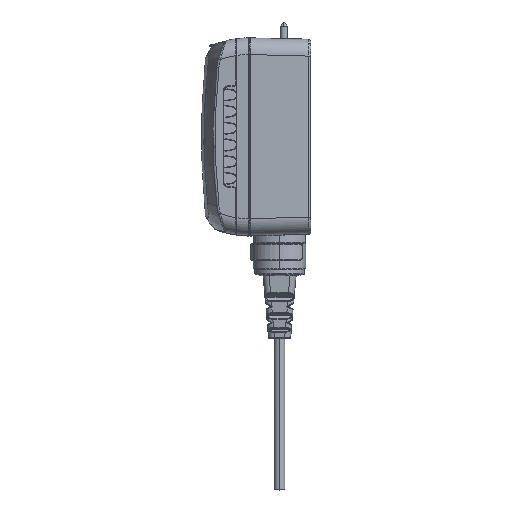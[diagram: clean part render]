
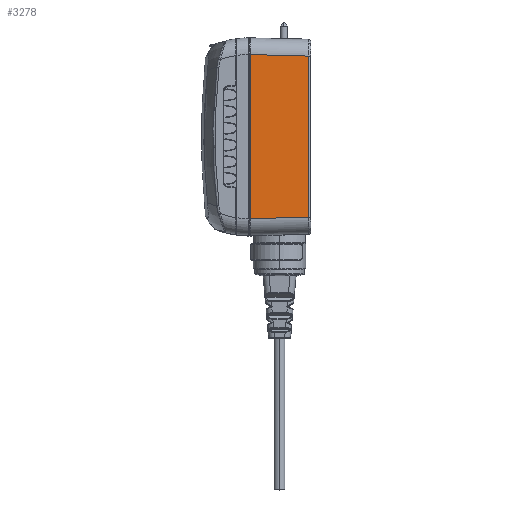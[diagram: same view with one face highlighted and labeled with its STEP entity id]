
A CAD part, top view. The second image highlights one B-rep face of the part: STEP entity #3278.
In plain terms, the highlighted planar face has unit normal (0.035, 0, 0.999).
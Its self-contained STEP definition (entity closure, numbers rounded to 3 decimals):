
#2083 = VERTEX_POINT ( 'NONE', #52191 ) ;
#3278 = ADVANCED_FACE ( 'NONE', ( #40141 ), #75639, .T. ) ;
#4516 = CARTESIAN_POINT ( 'NONE',  ( 0.007, -49., 113.993 ) ) ;
#5390 = DIRECTION ( 'NONE',  ( 0.999, -0.026, -0.035 ) ) ;
#6051 = DIRECTION ( 'NONE',  ( 0.035, 0., 0.999 ) ) ;
#6235 = ORIENTED_EDGE ( 'NONE', *, *, #34048, .F. ) ;
#8381 = DIRECTION ( 'NONE',  ( -0.999, -0.026, 0.035 ) ) ;
#11627 = VERTEX_POINT ( 'NONE', #68197 ) ;
#14277 = DIRECTION ( 'NONE',  ( 0., 1., 0. ) ) ;
#16778 = VECTOR ( 'NONE', #14277, 1000. ) ;
#19709 = EDGE_CURVE ( 'NONE', #40076, #34179, #64075, .T. ) ;
#23277 = EDGE_LOOP ( 'NONE', ( #6235, #47728, #37863, #70306 ) ) ;
#23509 = CARTESIAN_POINT ( 'NONE',  ( 17.43, 0., 113.384 ) ) ;
#29090 = AXIS2_PLACEMENT_3D ( 'NONE', #23509, #6051, #42025 ) ;
#31998 = CARTESIAN_POINT ( 'NONE',  ( 0.007, 49., 113.993 ) ) ;
#32685 = VECTOR ( 'NONE', #5390, 1000. ) ;
#34048 = EDGE_CURVE ( 'NONE', #2083, #40076, #38169, .T. ) ;
#34179 = VERTEX_POINT ( 'NONE', #31998 ) ;
#35580 = LINE ( 'NONE', #54136, #32685 ) ;
#37863 = ORIENTED_EDGE ( 'NONE', *, *, #71351, .F. ) ;
#38169 = LINE ( 'NONE', #62125, #60752 ) ;
#38640 = LINE ( 'NONE', #72611, #16778 ) ;
#38983 = DIRECTION ( 'NONE',  ( 0., 1., 0. ) ) ;
#40076 = VERTEX_POINT ( 'NONE', #47782 ) ;
#40141 = FACE_OUTER_BOUND ( 'NONE', #23277, .T. ) ;
#42025 = DIRECTION ( 'NONE',  ( 0., 1., 0. ) ) ;
#47728 = ORIENTED_EDGE ( 'NONE', *, *, #48593, .T. ) ;
#47782 = CARTESIAN_POINT ( 'NONE',  ( 0.007, -49., 113.993 ) ) ;
#48593 = EDGE_CURVE ( 'NONE', #2083, #11627, #38640, .T. ) ;
#52191 = CARTESIAN_POINT ( 'NONE',  ( 34.852, -48.088, 112.776 ) ) ;
#54136 = CARTESIAN_POINT ( 'NONE',  ( 0.007, 49., 113.993 ) ) ;
#59441 = VECTOR ( 'NONE', #38983, 1000. ) ;
#60752 = VECTOR ( 'NONE', #8381, 1000. ) ;
#62125 = CARTESIAN_POINT ( 'NONE',  ( 34.852, -48.088, 112.776 ) ) ;
#64075 = LINE ( 'NONE', #4516, #59441 ) ;
#68197 = CARTESIAN_POINT ( 'NONE',  ( 34.852, 48.088, 112.776 ) ) ;
#70306 = ORIENTED_EDGE ( 'NONE', *, *, #19709, .F. ) ;
#71351 = EDGE_CURVE ( 'NONE', #34179, #11627, #35580, .T. ) ;
#72611 = CARTESIAN_POINT ( 'NONE',  ( 34.852, -48.088, 112.776 ) ) ;
#75639 = PLANE ( 'NONE',  #29090 ) ;
